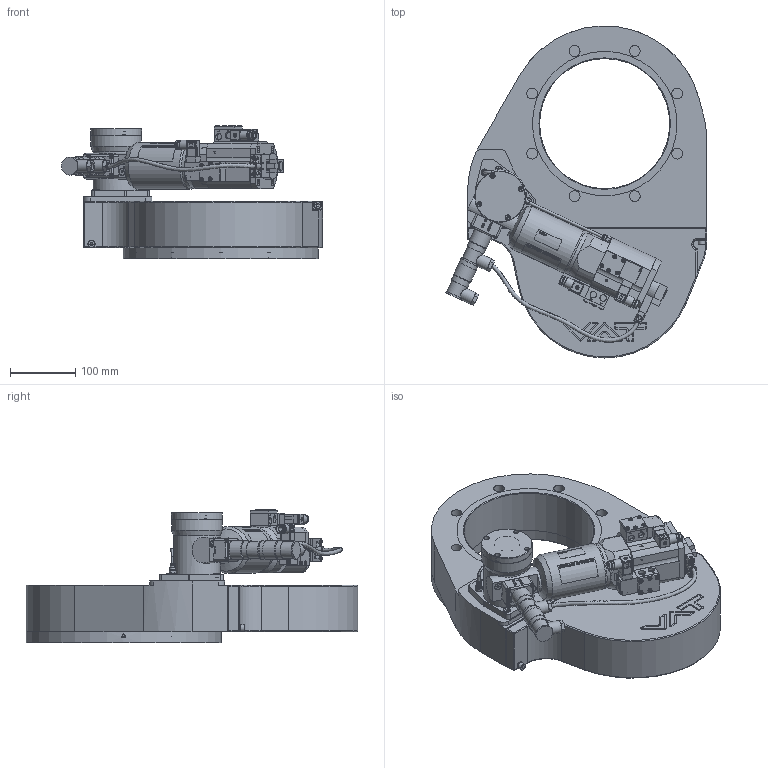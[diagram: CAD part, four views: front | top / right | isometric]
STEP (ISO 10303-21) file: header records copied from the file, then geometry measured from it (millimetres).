
FILE_DESCRIPTION(/* description */ (''),/* implementation_level */ '2;1');
FILE_NAME(/* name */ '1461474522_203.stp',/* time_stamp */ '2019-03-01T13:20:04+01:00',/* author */ (''),/* organization */ (''),/* preprocessor_version */ 'ST-DEVELOPER v16',/* originating_system */ 'SIEMENS PLM Software NX 11.0',/* authorisation */ '');
FILE_SCHEMA (('AP203_CONFIGURATION_CONTROLLED_3D_DESIGN_OF_MECHANICAL_PARTS_AND_ASSEMBLIES_MIM_LF { 1 0 10303 403 2 1 2}'));
Products named in the file (62): N-8406-013_3.2; N-8406-013_2.1; 73662-01.1; 202839_1.2; N-6121-039.1; N-6099-417.1; 75429-01_26849ID; 69252-01_26852ID; 69252-01_26851ID; 82555-01; n-8210-239; 82610-01; n-8406-007; n-8406-551; n-6030-011; 69672-01; n-8406-006_1; 467882; 437235; 77379-01.1; T-9001-055.1; N-6016-478.2; 69846-01; n-6024-531; N-7557-016_1.1; N-7557-018.1; N-7557-016_2.1; N-6024-524.1; N-5018-005.1; N-8504-005.2; 232959.1; 885613; 885287; 310931.1; 310276.1; 310619.1; 222717.1; N-6005-439_1.1; 218188.1; 247374.3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
Assembly tree (103 placements, depth 7):
  971691
    971687
    885761
    971689
    885201_NX-ARRAGMNTANTRIEB - Typ 48
      885064
      885181
      250743
      N-7607-023.1
      248044.2
      247374.3
      218188.1  x3
      N-6005-439_1.1  x4
      222717.1  x2
      310619.1
      310276.1
      310931.1
      885287
      885613
      400460_MODEL
        310926.1
          N-8504-005.2
          71852-r1_NX-ARRAGMNTZUSAMMENSTELLUNG
            n-8406-006_1
            69672-01
            n-6030-011  x4
            n-8406-551  x2
            n-8406-007
            82610-01
            n-8210-239  x4
            82555-01
          n-6024-531  x4
          69428-r1_MODELNX-ARRAGMNTZUSAMMENST1
            69252-01_26851ID
            69252-01_26852ID
            75429-01_26849ID
          69846-01
        78855-R1.9_NX-ARRAGMNTLM mit allen Teilen, Produktionsmodell PCA
          N-6016-478.2  x2
          T-9001-055.1
          78856-R1.3
            N-6099-417.1  x2
            N-6121-039.1
            202839_1.2
            73662-01.1
            N-8406-013_1_1.4_NX-ARRAGMNTZUSAMMENST1
              N-8406-013_2.1
              202839_1.2
              N-8406-013_3.2
          77379-01.1
        N-8504-005.2
      232959.1  x4
      94800-r1.7_NX-ARRAGMNTKONFIG2  x2
        N-5018-005.1
        N-6024-524.1
        N-7557-016_2.1
        N-7557-018.1
        N-7557-016_1.1
        N-7557-016_3.1_MODELNX-ARRAGMNTArrangement 1
          437235
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Bounding box: 401.19 x 510 x 204.67 mm (x, y, z)
Volume: 10255478.8 mm3; surface area: 887790.8 mm2
Topology: 155 solids, 155 shells, 3987 faces, 9670 edges, 6300 vertices
Faces by surface type: plane 2522, cylinder 891, cone 191, extrusion 183, torus 80, bspline 64, sphere 52, revolution 4
Full cylindrical faces by diameter (mm): 0.5 x2, 1 x7, 1.2 x10, 1.4 x2, 1.5 x13, 1.6 x6, 1.95 x4, 2 x2, 2.115 x4, 2.2 x4, 2.25 x4, 2.3 x5, 2.5 x25, 2.7 x4, 2.856 x4, 3 x25, 3.2 x4, 3.26 x4, 3.3 x4, 3.4 x12, 3.5 x13, 3.9 x4, 4 x18, 4.134 x1, 4.16 x4, 4.2 x9, 4.22 x2, 4.5 x8, 4.96 x5, 5 x28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
Entity records: 101048 total; most frequent: CARTESIAN_POINT 24866, ORIENTED_EDGE 12924, DIRECTION 12781, EDGE_CURVE 6462, VERTEX_POINT 4535, AXIS2_PLACEMENT_3D 4481, EDGE_LOOP 3847, VECTOR 3815
